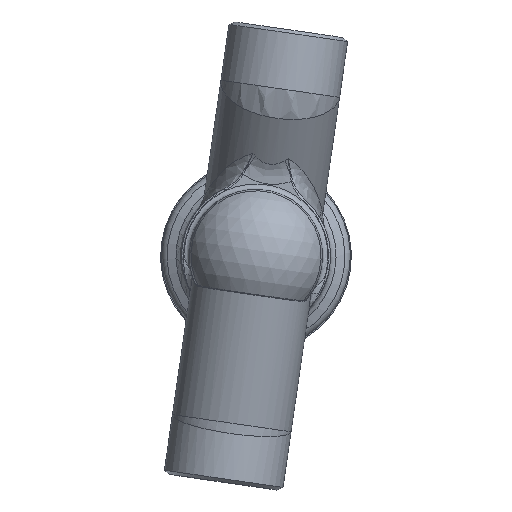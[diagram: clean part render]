
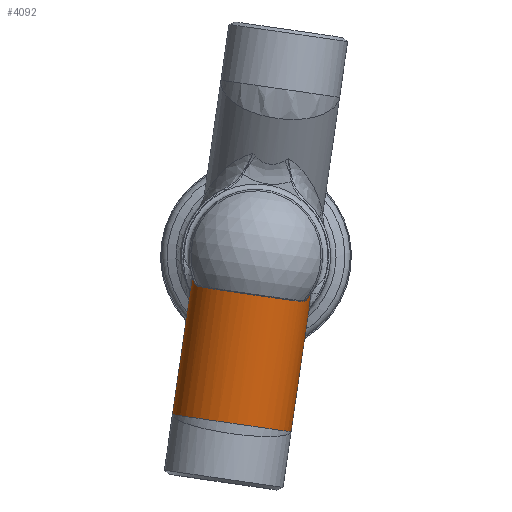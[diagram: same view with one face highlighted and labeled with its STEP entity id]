
A CAD part, top view. The second image highlights one B-rep face of the part: STEP entity #4092.
In plain terms, the highlighted cylindrical face has radius 30.15 mm (diameter 60.3 mm), a full revolution.
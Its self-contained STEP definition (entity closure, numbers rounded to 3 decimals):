
#1804=CARTESIAN_POINT('',(-28.475,19.117,-17.964));
#1805=VERTEX_POINT('',#1804);
#1824=CARTESIAN_POINT('',(-30.036,26.003,-15.061));
#1825=VERTEX_POINT('',#1824);
#1833=CARTESIAN_POINT('',(-30.036,26.003,-15.061));
#1834=CARTESIAN_POINT('',(-29.813,23.497,-15.519));
#1835=CARTESIAN_POINT('',(-29.261,21.18,-16.651));
#1836=CARTESIAN_POINT('',(-28.475,19.117,-17.964));
#1837=B_SPLINE_CURVE_WITH_KNOTS('',3,(#1833,#1834,#1835,#1836),.UNSPECIFIED.,.F.,.U.,(4,4),(0.0,0.793),.UNSPECIFIED.);
#1838=EDGE_CURVE('',#1825,#1805,#1837,.T.);
#1860=CARTESIAN_POINT('',(-26.648,15.099,-19.327));
#1861=VERTEX_POINT('',#1860);
#1879=CARTESIAN_POINT('',(-28.475,19.117,-17.964));
#1880=CARTESIAN_POINT('',(-27.998,17.866,-18.76));
#1881=CARTESIAN_POINT('',(-27.368,16.473,-19.284));
#1882=CARTESIAN_POINT('',(-26.648,15.099,-19.327));
#1883=B_SPLINE_CURVE_WITH_KNOTS('',3,(#1879,#1880,#1881,#1882),.UNSPECIFIED.,.F.,.U.,(4,4),(-0.481,0.0),.UNSPECIFIED.);
#1884=EDGE_CURVE('',#1805,#1861,#1883,.T.);
#1938=CARTESIAN_POINT('',(26.648,15.099,-19.327));
#1939=VERTEX_POINT('',#1938);
#1965=CARTESIAN_POINT('',(-26.648,15.099,-19.327));
#1966=CARTESIAN_POINT('',(-25.206,12.348,-19.414));
#1967=CARTESIAN_POINT('',(-22.355,8.491,-19.513));
#1968=CARTESIAN_POINT('',(-17.609,4.465,-19.589));
#1969=CARTESIAN_POINT('',(-12.225,1.175,-19.636));
#1970=CARTESIAN_POINT('',(-6.246,-0.771,-19.651));
#1971=CARTESIAN_POINT('',(0.044,-1.261,-19.654));
#1972=CARTESIAN_POINT('',(6.266,-0.764,-19.651));
#1973=CARTESIAN_POINT('',(13.809,1.703,-19.632));
#1974=CARTESIAN_POINT('',(21.447,7.254,-19.546));
#1975=CARTESIAN_POINT('',(25.206,12.348,-19.414));
#1976=CARTESIAN_POINT('',(26.648,15.099,-19.327));
#1977=B_SPLINE_CURVE_WITH_KNOTS('',3,(#1965,#1966,#1967,#1968,#1969,#1970,#1971,#1972,#1973,#1974,#1975,#1976),.UNSPECIFIED.,.F.,.U.,(4,1,1,1,1,1,1,1,1,4),(0.0,0.963,1.444,1.925,2.888,3.369,3.85,4.813,5.775,6.738),.UNSPECIFIED.);
#1978=EDGE_CURVE('',#1861,#1939,#1977,.T.);
#2000=CARTESIAN_POINT('',(28.475,19.117,-17.964));
#2001=VERTEX_POINT('',#2000);
#2019=CARTESIAN_POINT('',(26.648,15.099,-19.327));
#2020=CARTESIAN_POINT('',(27.368,16.473,-19.284));
#2021=CARTESIAN_POINT('',(27.998,17.866,-18.76));
#2022=CARTESIAN_POINT('',(28.475,19.117,-17.964));
#2023=B_SPLINE_CURVE_WITH_KNOTS('',3,(#2019,#2020,#2021,#2022),.UNSPECIFIED.,.F.,.U.,(4,4),(-0.481,0.0),.UNSPECIFIED.);
#2024=EDGE_CURVE('',#1939,#2001,#2023,.T.);
#2046=CARTESIAN_POINT('',(30.036,26.003,-15.061));
#2047=VERTEX_POINT('',#2046);
#2065=CARTESIAN_POINT('',(28.475,19.117,-17.964));
#2066=CARTESIAN_POINT('',(29.261,21.18,-16.65));
#2067=CARTESIAN_POINT('',(29.813,23.496,-15.519));
#2068=CARTESIAN_POINT('',(30.036,26.003,-15.061));
#2069=B_SPLINE_CURVE_WITH_KNOTS('',3,(#2065,#2066,#2067,#2068),.UNSPECIFIED.,.F.,.U.,(4,4),(0.0,0.793),.UNSPECIFIED.);
#2070=EDGE_CURVE('',#2001,#2047,#2069,.T.);
#2302=CARTESIAN_POINT('',(30.117,31.725,-24.303));
#2303=VERTEX_POINT('',#2302);
#2304=CARTESIAN_POINT('',(30.036,26.003,-15.061));
#2305=CARTESIAN_POINT('',(30.033,26.263,-16.732));
#2306=CARTESIAN_POINT('',(30.047,26.891,-19.521));
#2307=CARTESIAN_POINT('',(30.128,28.572,-22.52));
#2308=CARTESIAN_POINT('',(30.159,30.257,-23.913));
#2309=CARTESIAN_POINT('',(30.139,31.236,-24.247));
#2310=CARTESIAN_POINT('',(30.117,31.725,-24.303));
#2311=B_SPLINE_CURVE_WITH_KNOTS('',3,(#2304,#2305,#2306,#2307,#2308,#2309,#2310),.UNSPECIFIED.,.F.,.U.,(4,1,1,1,4),(-1.202,-0.7,-0.35,-0.175,0.0),.UNSPECIFIED.);
#2312=EDGE_CURVE('',#2047,#2303,#2311,.T.);
#2442=CARTESIAN_POINT('',(-30.117,31.725,-24.303));
#2443=VERTEX_POINT('',#2442);
#2473=CARTESIAN_POINT('',(30.117,31.725,-24.303));
#2474=CARTESIAN_POINT('',(30.007,34.172,-24.581));
#2475=CARTESIAN_POINT('',(29.235,39.02,-26.131));
#2476=CARTESIAN_POINT('',(26.91,45.508,-29.803));
#2477=CARTESIAN_POINT('',(23.615,51.355,-33.869));
#2478=CARTESIAN_POINT('',(19.733,55.964,-37.448));
#2479=CARTESIAN_POINT('',(14.521,60.361,-41.026));
#2480=CARTESIAN_POINT('',(8.82,63.27,-43.501));
#2481=CARTESIAN_POINT('',(0.836,64.846,-44.855));
#2482=CARTESIAN_POINT('',(-6.622,64.083,-44.198));
#2483=CARTESIAN_POINT('',(-13.866,60.776,-41.374));
#2484=CARTESIAN_POINT('',(-21.077,55.087,-36.716));
#2485=CARTESIAN_POINT('',(-26.149,47.645,-31.015));
#2486=CARTESIAN_POINT('',(-29.239,38.996,-26.119));
#2487=CARTESIAN_POINT('',(-30.007,34.172,-24.581));
#2488=CARTESIAN_POINT('',(-30.117,31.725,-24.303));
#2489=B_SPLINE_CURVE_WITH_KNOTS('',3,(#2473,#2474,#2475,#2476,#2477,#2478,#2479,#2480,#2481,#2482,#2483,#2484,#2485,#2486,#2487,#2488),.UNSPECIFIED.,.F.,.U.,(4,1,1,1,1,1,1,1,1,1,1,1,1,4),(0.0,0.876,1.752,2.628,3.504,4.087,5.255,5.839,7.007,7.883,8.759,10.511,11.386,12.262),.UNSPECIFIED.);
#2490=EDGE_CURVE('',#2303,#2443,#2489,.T.);
#2552=CARTESIAN_POINT('',(-30.117,31.725,-24.303));
#2553=CARTESIAN_POINT('',(-30.139,31.236,-24.247));
#2554=CARTESIAN_POINT('',(-30.166,29.756,-23.739));
#2555=CARTESIAN_POINT('',(-30.095,27.868,-21.572));
#2556=CARTESIAN_POINT('',(-30.039,26.632,-18.369));
#2557=CARTESIAN_POINT('',(-30.034,26.173,-16.149));
#2558=CARTESIAN_POINT('',(-30.036,26.003,-15.061));
#2559=B_SPLINE_CURVE_WITH_KNOTS('',3,(#2552,#2553,#2554,#2555,#2556,#2557,#2558),.UNSPECIFIED.,.F.,.U.,(4,1,1,1,4),(-2.177,-2.002,-1.652,-1.302,-0.974),.UNSPECIFIED.);
#2560=EDGE_CURVE('',#2443,#1825,#2559,.T.);
#4046=CARTESIAN_POINT('',(30.15,41.,-85.0));
#4047=VERTEX_POINT('',#4046);
#4048=CARTESIAN_POINT('',(-30.15,41.,-85.));
#4049=VERTEX_POINT('',#4048);
#4050=CARTESIAN_POINT('',(0.,41.,-85.));
#4051=DIRECTION('',(0.,0.002,-1.));
#4052=DIRECTION('',(0.0,-1.,-0.002));
#4053=AXIS2_PLACEMENT_3D('',#4050,#4051,#4052);
#4054=ELLIPSE('',#4053,30.606,30.15);
#4055=EDGE_CURVE('',#4047,#4049,#4054,.T.);
#4067=CARTESIAN_POINT('',(0.,41.0,-85.0));
#4068=DIRECTION('',(0.0,-0.174,0.985));
#4069=DIRECTION('',(-1.0,0.0,0.0));
#4070=AXIS2_PLACEMENT_3D('',#4067,#4068,#4069);
#4071=CYLINDRICAL_SURFACE('',#4070,30.15);
#4072=ORIENTED_EDGE('',*,*,#1838,.F.);
#4073=ORIENTED_EDGE('',*,*,#2560,.F.);
#4074=ORIENTED_EDGE('',*,*,#2490,.F.);
#4075=ORIENTED_EDGE('',*,*,#2312,.F.);
#4076=ORIENTED_EDGE('',*,*,#2070,.F.);
#4077=ORIENTED_EDGE('',*,*,#2024,.F.);
#4078=ORIENTED_EDGE('',*,*,#1978,.F.);
#4079=ORIENTED_EDGE('',*,*,#1884,.F.);
#4080=EDGE_LOOP('',(#4072,#4073,#4074,#4075,#4076,#4077,#4078,#4079));
#4081=FACE_OUTER_BOUND('',#4080,.T.);
#4082=ORIENTED_EDGE('',*,*,#4055,.F.);
#4083=CARTESIAN_POINT('',(0.,41.,-85.));
#4084=DIRECTION('',(0.0,0.173,-0.985));
#4085=DIRECTION('',(0.0,0.985,0.173));
#4086=AXIS2_PLACEMENT_3D('',#4083,#4084,#4085);
#4087=ELLIPSE('',#4086,30.15,30.15);
#4088=EDGE_CURVE('',#4049,#4047,#4087,.T.);
#4089=ORIENTED_EDGE('',*,*,#4088,.F.);
#4090=EDGE_LOOP('',(#4082,#4089));
#4091=FACE_BOUND('',#4090,.T.);
#4092=ADVANCED_FACE('',(#4081,#4091),#4071,.T.);
